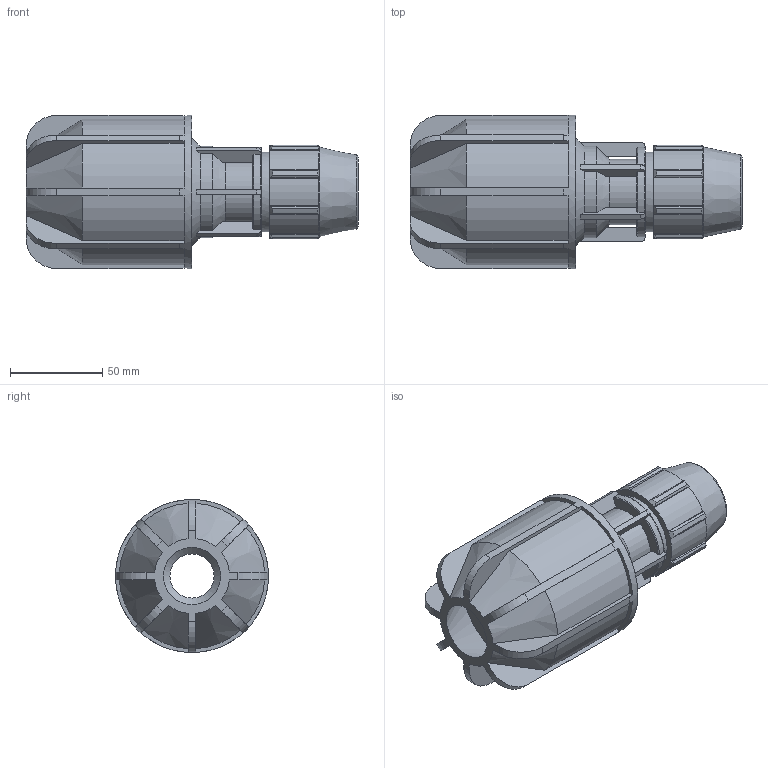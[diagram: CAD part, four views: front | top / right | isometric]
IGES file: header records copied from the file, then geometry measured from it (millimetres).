
Global section: file name: 070170M07035.ipt; native system: Autodesk Inventor 2019; preprocessor: unknown; author: KIM; date: 20210826.124333; units: inch
Bounding box: 180.09 x 83.06 x 83.06 mm (x, y, z)
Volume: 360822 mm3; surface area: 75645.9 mm2
Topology: 1 solids, 1 shells, 206 faces, 625 edges, 415 vertices
Faces by surface type: plane 112, cylinder 53, revolution 21, cone 20
Full cylindrical faces by diameter (mm): 35.686 x1, 43.282 x1, 83.058 x1
